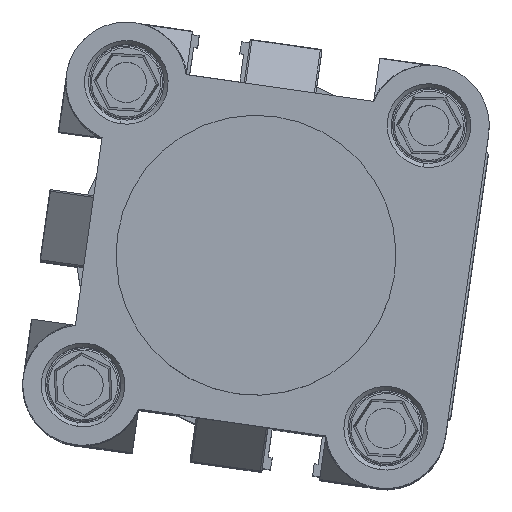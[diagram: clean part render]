
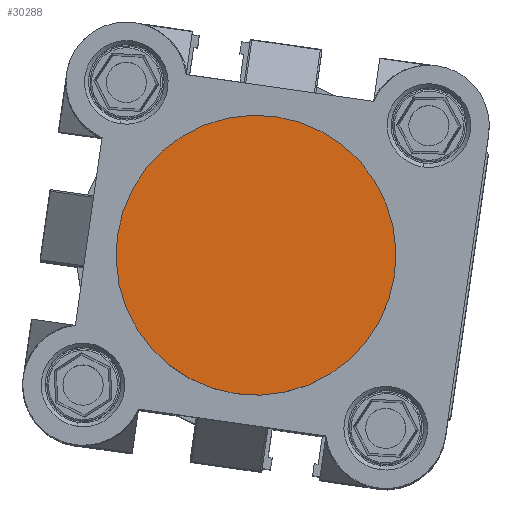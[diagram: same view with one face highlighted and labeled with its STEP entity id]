
A CAD part, top view. The second image highlights one B-rep face of the part: STEP entity #30288.
In plain terms, the highlighted planar face has unit normal (0, 0, 1) as drawn and (0, 0, -1) by its records, which use the part's own axes.
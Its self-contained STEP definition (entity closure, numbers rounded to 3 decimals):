
#3020 = EDGE_LOOP ( 'NONE', ( #10283, #31413 ) ) ;
#7196 = AXIS2_PLACEMENT_3D ( 'NONE', #9265, #27272, #11862 ) ;
#8389 = CARTESIAN_POINT ( 'NONE',  ( 3.6, 21., -4.1 ) ) ;
#9265 = CARTESIAN_POINT ( 'NONE',  ( 21., 21., -4.1 ) ) ;
#9705 = AXIS2_PLACEMENT_3D ( 'NONE', #11132, #29228, #13857 ) ;
#10283 = ORIENTED_EDGE ( 'NONE', *, *, #18626, .F. ) ;
#10620 = CARTESIAN_POINT ( 'NONE',  ( 21., 21., -4.1 ) ) ;
#11132 = CARTESIAN_POINT ( 'NONE',  ( 0., 0., -4.1 ) ) ;
#11862 = DIRECTION ( 'NONE',  ( 1., 0., 0. ) ) ;
#13232 = DIRECTION ( 'NONE',  ( 1., 0., 0. ) ) ;
#13857 = DIRECTION ( 'NONE',  ( 1., 0., 0. ) ) ;
#18626 = EDGE_CURVE ( 'NONE', #26604, #32533, #28528, .T. ) ;
#20266 = AXIS2_PLACEMENT_3D ( 'NONE', #10620, #28613, #13232 ) ;
#21361 = FACE_OUTER_BOUND ( 'NONE', #3020, .T. ) ;
#21416 = CIRCLE ( 'NONE', #20266, 17.4 ) ;
#23708 = EDGE_CURVE ( 'NONE', #32533, #26604, #21416, .T. ) ;
#26604 = VERTEX_POINT ( 'NONE', #26888 ) ;
#26639 = PLANE ( 'NONE',  #9705 ) ;
#26888 = CARTESIAN_POINT ( 'NONE',  ( 38.4, 21., -4.1 ) ) ;
#27272 = DIRECTION ( 'NONE',  ( 0., 0., 1. ) ) ;
#28528 = CIRCLE ( 'NONE', #7196, 17.4 ) ;
#28613 = DIRECTION ( 'NONE',  ( 0., 0., 1. ) ) ;
#29228 = DIRECTION ( 'NONE',  ( 0., 0., 1. ) ) ;
#30288 = ADVANCED_FACE ( 'NONE', ( #21361 ), #26639, .F. ) ;
#31413 = ORIENTED_EDGE ( 'NONE', *, *, #23708, .F. ) ;
#32533 = VERTEX_POINT ( 'NONE', #8389 ) ;
